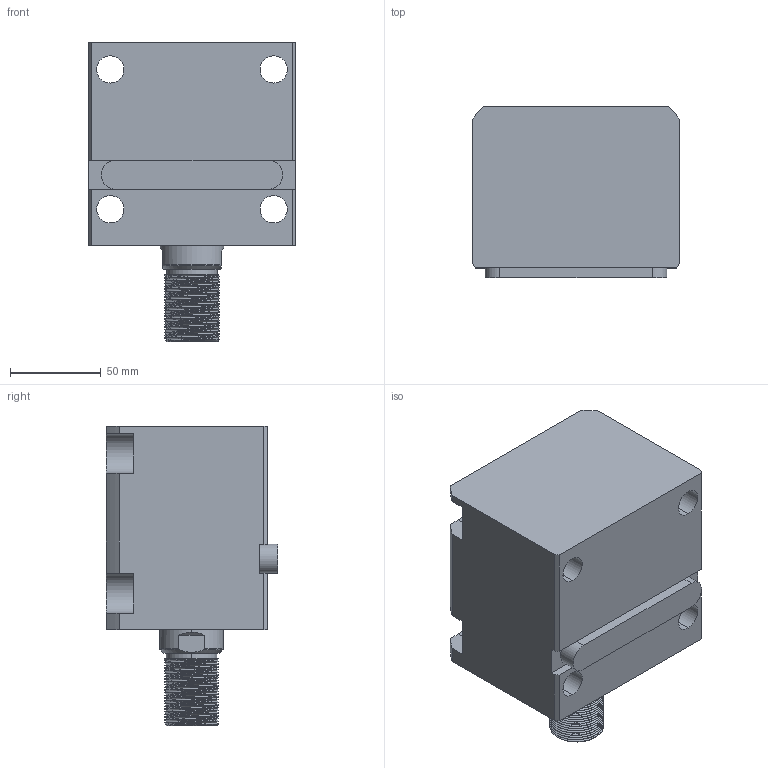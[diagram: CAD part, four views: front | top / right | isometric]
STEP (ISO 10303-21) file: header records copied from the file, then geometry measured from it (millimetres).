
FILE_DESCRIPTION (( 'STEP AP214' ), '1' );
FILE_NAME ('chtb-la63x45w_asm.STEP', '2018-05-17T03:01:00', ( 'Windows' ), ( 'Microsoft' ), 'SwSTEP 2.0', 'SolidWorks 2015', '' );
FILE_SCHEMA (( 'AUTOMOTIVE_DESIGN' ));
Length unit declared in the file: millimetre
Products named in the file (5): CHTB-LA63X45NBT; CHTB-LA63PJ; CHTB63X45WHSG; CHTB-63QG; chtb-la63x45w_asm
Assembly tree (4 placements, depth 2):
  chtb-la63x45w_asm
    CHTB-63QG
    CHTB63X45WHSG
    CHTB-LA63PJ
    CHTB-LA63X45NBT
Bounding box: 114 x 94.5 x 165 mm (x, y, z)
Volume: 998567.2 mm3; surface area: 153649.3 mm2
Topology: 4 solids, 4 shells, 228 faces, 670 edges, 457 vertices
Faces by surface type: cylinder 147, plane 48, bspline 14, cone 13, torus 6
Entity records: 22769 total; most frequent: CARTESIAN_POINT 17126, ORIENTED_EDGE 1332, DIRECTION 940, EDGE_CURVE 666, VERTEX_POINT 457, AXIS2_PLACEMENT_3D 350, EDGE_LOOP 253, VECTOR 240
